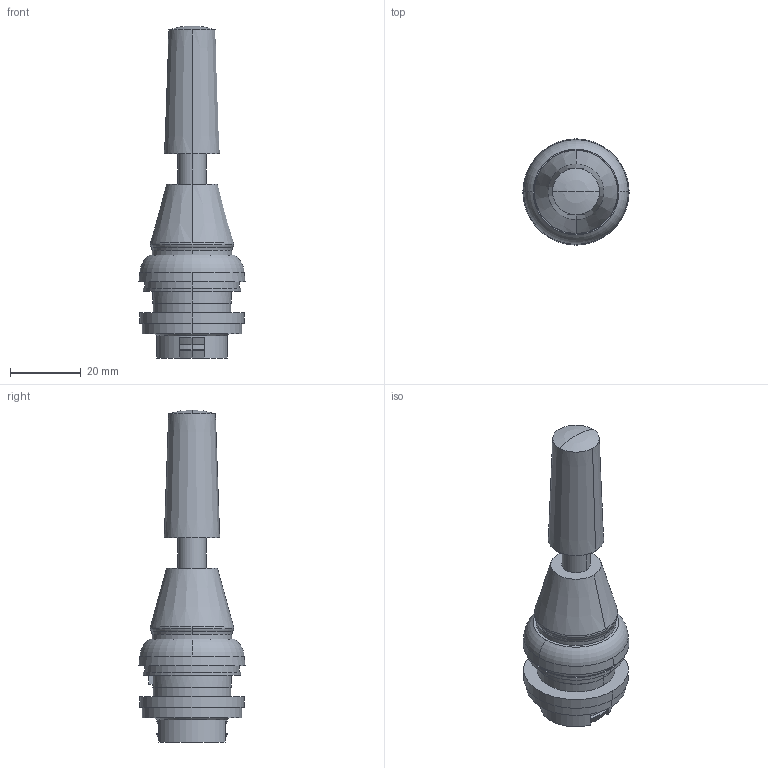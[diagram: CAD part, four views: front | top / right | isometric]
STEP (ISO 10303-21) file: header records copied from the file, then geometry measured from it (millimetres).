
FILE_DESCRIPTION( ( '' ), '1' );
FILE_NAME( '//expscmdclustefs.cadenas.external/client_exchange/iodir/jobs/output/wkb45410717_no0/STEP/111508_2_03.stp', '2012-05-29T20:29:12', ( '' ), ( '' ), ' ', ' ', ' ' );
FILE_SCHEMA( ( 'CONFIG_CONTROL_DESIGN' ) );
Length unit declared in the file: millimetre
Products named in the file (1): 1
Bounding box: 30 x 30 x 93.8 mm (x, y, z)
Volume: 27121 mm3; surface area: 7282.6 mm2
Topology: 1 solids, 1 shells, 74 faces, 179 edges, 116 vertices
Faces by surface type: plane 26, cylinder 22, cone 16, torus 8, sphere 2
Entity records: 2234 total; most frequent: DIRECTION 424, CARTESIAN_POINT 384, ORIENTED_EDGE 354, AXIS2_PLACEMENT_3D 180, EDGE_CURVE 177, VERTEX_POINT 116, CIRCLE 105, EDGE_LOOP 85
